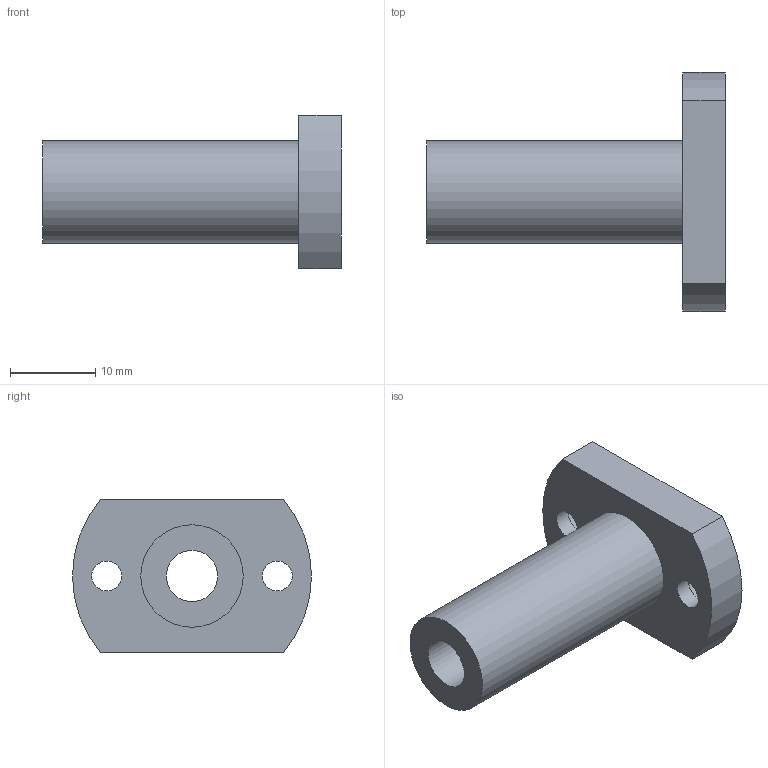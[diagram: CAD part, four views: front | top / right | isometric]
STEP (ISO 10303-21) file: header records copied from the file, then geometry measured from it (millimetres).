
FILE_DESCRIPTION(/* description */ ('Unknown'),/* implementation_level */ '2;1');
FILE_NAME(/* name */ 'LMH6LUU',/* time_stamp */ '2025-02-04T10:25:47+08:00',/* author */ ('Unknown'),/* organization */ ('Unknown'),/* preprocessor_version */ 'ST-DEVELOPER v18.102',/* originating_system */ 'Solid Edge',/* authorisation */ 'Unknown');
FILE_SCHEMA (('AUTOMOTIVE_DESIGN {1 0 10303 214 3 1 1}'));
Length unit declared in the file: millimetre
Products named in the file (1): LMH6LUU
Bounding box: 35 x 28 x 18 mm (x, y, z)
Volume: 4525.1 mm3; surface area: 3197.8 mm2
Topology: 1 solids, 1 shells, 15 faces, 32 edges, 22 vertices
Faces by surface type: cylinder 8, plane 7
Full cylindrical faces by diameter (mm): 3.5 x2, 6 x3, 12 x1
Entity records: 412 total; most frequent: DIRECTION 72, CARTESIAN_POINT 60, ORIENTED_EDGE 48, AXIS2_PLACEMENT_3D 32, EDGE_LOOP 30, FACE_BOUND 30, EDGE_CURVE 24, VERTEX_POINT 20
